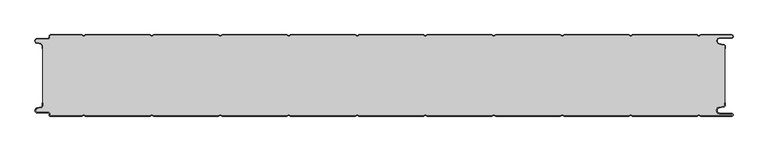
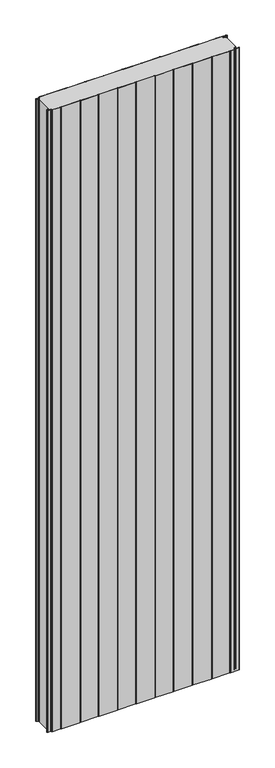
"""IFC4 building model written with IfcOpenShell, lengths in millimetres: plate geometry, PMH_Curtain-Panel_Perfil-Frigorífico : ACH_PMH_Panel-Acústico-Sectorización_120M."""

from ifc_helpers import new_model, si_unit, point, frame_2d, origin, origin_with_axes, place, context, project, spatial, polyline, circle_curve, trimmed, segment, composite_curve, outline, extrude, source, transform, mapped, element, save


def plate_1fa75648(model_context):
    return source(origin(), model_context, "Body", "SweptSolid", [
        extrude(outline(composite_curve([segment(polyline([(-500.0, 15.878557), (-500.0, 20.0), (-499.2, 20.0), (-499.2, 15.878557)]), True, "CONTINUOUS"), segment(trimmed(circle_curve(frame_2d((-502.0, 15.878557)), 2.8), [point((-499.2, 15.878557))], [point((-501.370137, 13.1503208))], False, "CARTESIAN"), True, "CONTINUOUS"), segment(polyline([(-501.370137, 13.1503208), (-507.529863, 11.728236)]), True, "CONTINUOUS"), segment(trimmed(circle_curve(frame_2d((-506.9, 9.0)), 2.8), [point((-507.529863, 11.728236))], [point((-506.9, 6.2))], True, "CARTESIAN"), True, "CONTINUOUS"), segment(polyline([(-506.9, 6.2), (-491.4, 6.2)]), True, "CONTINUOUS"), segment(trimmed(circle_curve(frame_2d((-491.4, 3.4)), 2.8), [point((-491.4, 6.2))], [point((-488.6, 3.4))], False, "CARTESIAN"), True, "CONTINUOUS"), segment(polyline([(-488.6, 3.4), (-488.6, 2.0)]), True, "CONTINUOUS"), segment(trimmed(circle_curve(frame_2d((-487.4, 2.0)), 1.2), [point((-488.6, 2.0))], [point((-487.4, 0.8))], True, "CARTESIAN"), True, "CONTINUOUS"), segment(polyline([(-487.4, 0.8), (-442.3143588, 0.8), (-439.4, 2.482606), (-436.4856412, 0.8), (-342.3143588, 0.8), (-339.4, 2.482606), (-336.4856412, 0.8), (-242.3143588, 0.8), (-239.4, 2.482606), (-236.4856412, 0.8), (-142.3143588, 0.8), (-139.4, 2.482606), (-136.4856412, 0.8), (-42.3143588, 0.8), (-39.4, 2.482606), (-36.4856412, 0.8), (57.6856412, 0.8), (60.6, 2.482606), (63.5143588, 0.8), (157.6856412, 0.8), (160.6, 2.482606), (163.5143588, 0.8), (257.6856412, 0.8), (260.6, 2.482606), (263.5143588, 0.8), (357.6856412, 0.8), (360.6, 2.482606), (363.5143588, 0.8), (457.6856412, 0.8), (460.6, 2.482606), (463.5143588, 0.8), (508.1, 0.8)]), True, "CONTINUOUS"), segment(trimmed(circle_curve(frame_2d((508.1, 2.5)), 1.7), [point((508.1, 0.8))], [point((508.1, 4.2))], True, "CARTESIAN"), True, "CONTINUOUS"), segment(polyline([(508.1, 4.2), (491.1, 4.2)]), True, "CONTINUOUS"), segment(trimmed(circle_curve(frame_2d((491.1, 9.0)), 4.8), [point((491.1, 4.2))], [point((490.2664884, 13.7270771))], False, "CARTESIAN"), True, "CONTINUOUS"), segment(polyline([(490.2664884, 13.7270771), (496.7125669, 14.8636953)]), True, "CONTINUOUS"), segment(trimmed(circle_curve(frame_2d((496.4, 16.6363492)), 1.8), [point((496.7125669, 14.8636953))], [point((498.2, 16.6363492))], True, "CARTESIAN"), True, "CONTINUOUS"), segment(polyline([(498.2, 16.6363492), (498.2, 20.0), (499.0, 20.0), (499.0, 16.6363492)]), True, "CONTINUOUS"), segment(trimmed(circle_curve(frame_2d((496.4, 16.6363492)), 2.6), [point((499.0, 16.6363492))], [point((496.8514855, 14.0758491))], False, "CARTESIAN"), True, "CONTINUOUS"), segment(polyline([(496.8514855, 14.0758491), (490.405407, 12.939231)]), True, "CONTINUOUS"), segment(trimmed(circle_curve(frame_2d((491.1, 9.0)), 4.0), [point((490.405407, 12.939231))], [point((491.1, 5.0))], True, "CARTESIAN"), True, "CONTINUOUS"), segment(polyline([(491.1, 5.0), (508.1, 5.0)]), True, "CONTINUOUS"), segment(trimmed(circle_curve(frame_2d((508.1, 2.5)), 2.5), [point((508.1, 5.0))], [point((508.1, 0.0))], False, "CARTESIAN"), True, "CONTINUOUS"), segment(polyline([(508.1, 0.0), (463.2999995, 0.0), (460.6, 1.5588455), (457.9000005, 0.0), (363.2999995, 0.0), (360.6, 1.5588455), (357.9000005, 0.0), (263.2999995, 0.0), (260.6, 1.5588455), (257.9000005, 0.0), (163.2999995, 0.0), (160.6, 1.5588455), (157.9000005, 0.0), (63.2999995, 0.0), (60.6, 1.5588455), (57.9000005, 0.0), (-36.7000005, 0.0), (-39.4, 1.5588455), (-42.0999995, 0.0), (-136.7000005, 0.0), (-139.4, 1.5588455), (-142.0999995, 0.0), (-236.7000005, 0.0), (-239.4, 1.5588455), (-242.0999995, 0.0), (-336.7000005, 0.0), (-339.4, 1.5588455), (-342.0999995, 0.0), (-436.7000005, 0.0), (-439.4, 1.5588455), (-442.0999995, 0.0), (-487.4, 0.0)]), True, "CONTINUOUS"), segment(trimmed(circle_curve(frame_2d((-487.4, 2.0)), 2.0), [point((-487.4, 0.0))], [point((-489.4, 2.0))], False, "CARTESIAN"), True, "CONTINUOUS"), segment(polyline([(-489.4, 2.0), (-489.4, 3.4)]), True, "CONTINUOUS"), segment(trimmed(circle_curve(frame_2d((-491.4, 3.4)), 2.0), [point((-489.4, 3.4))], [point((-491.4, 5.4))], True, "CARTESIAN"), True, "CONTINUOUS"), segment(polyline([(-491.4, 5.4), (-506.9, 5.4)]), True, "CONTINUOUS"), segment(trimmed(circle_curve(frame_2d((-506.9, 9.0)), 3.6), [point((-506.9, 5.4))], [point((-507.7098239, 12.5077322))], False, "CARTESIAN"), True, "CONTINUOUS"), segment(polyline([(-507.7098239, 12.5077322), (-501.5500979, 13.929817)]), True, "CONTINUOUS"), segment(trimmed(circle_curve(frame_2d((-502.0, 15.878557)), 2.0), [point((-501.5500979, 13.929817))], [point((-500.0, 15.878557))], True, "CARTESIAN"), True, "CONTINUOUS")], self_intersect=False)), origin_with_axes(), (0.0, 0.0, 1.0), 3500.0),
        extrude(outline(composite_curve([segment(trimmed(circle_curve(frame_2d((-502.0, 104.1214426)), 2.8), [point((-499.2, 104.1214426))], [point((-501.370137, 106.8496788))], True, "CARTESIAN"), True, "CONTINUOUS"), segment(polyline([(-501.370137, 106.8496788), (-507.5298631, 108.2717638)]), True, "CONTINUOUS"), segment(trimmed(circle_curve(frame_2d((-506.9, 111.0)), 2.8), [point((-507.5298631, 108.2717638))], [point((-506.9, 113.8))], False, "CARTESIAN"), True, "CONTINUOUS"), segment(polyline([(-506.9, 113.8), (-491.4000001, 113.8)]), True, "CONTINUOUS"), segment(trimmed(circle_curve(frame_2d((-491.4000001, 116.6)), 2.8), [point((-491.4000001, 113.8))], [point((-488.6000001, 116.6))], True, "CARTESIAN"), True, "CONTINUOUS"), segment(polyline([(-488.6000001, 116.6), (-488.6000001, 118.0)]), True, "CONTINUOUS"), segment(trimmed(circle_curve(frame_2d((-487.4000001, 118.0)), 1.2), [point((-488.6000001, 118.0))], [point((-487.4000001, 119.2))], False, "CARTESIAN"), True, "CONTINUOUS"), segment(polyline([(-487.4000001, 119.2), (-442.3143589, 119.2), (-439.4000001, 117.517394), (-436.4856412, 119.2), (-342.3143589, 119.2), (-339.4000001, 117.517394), (-336.4856412, 119.2), (-242.3143589, 119.2), (-239.4000001, 117.517394), (-236.4856412, 119.2), (-142.3143589, 119.2), (-139.4000001, 117.517394), (-136.4856412, 119.2), (-42.3143589, 119.2), (-39.4000001, 117.517394), (-36.4856412, 119.2), (57.6856411, 119.2), (60.5999999, 117.517394), (63.5143588, 119.2), (157.6856411, 119.2), (160.5999999, 117.517394), (163.5143588, 119.2), (257.6856411, 119.2), (260.5999999, 117.517394), (263.5143588, 119.2), (357.6856411, 119.2), (360.5999999, 117.517394), (363.5143588, 119.2), (457.6856411, 119.2), (460.5999999, 117.517394), (463.5143588, 119.2), (508.0999999, 119.2)]), True, "CONTINUOUS"), segment(trimmed(circle_curve(frame_2d((508.0999999, 117.5)), 1.7), [point((508.0999999, 119.2))], [point((508.0999999, 115.8))], False, "CARTESIAN"), True, "CONTINUOUS"), segment(polyline([(508.0999999, 115.8), (491.0999999, 115.8)]), True, "CONTINUOUS"), segment(trimmed(circle_curve(frame_2d((491.0999999, 111.0)), 4.8), [point((491.0999999, 115.8))], [point((490.2664883, 106.2729229))], True, "CARTESIAN"), True, "CONTINUOUS"), segment(polyline([(490.2664883, 106.2729229), (496.7125668, 105.1363047)]), True, "CONTINUOUS"), segment(trimmed(circle_curve(frame_2d((496.3999999, 103.3636508)), 1.8), [point((496.7125668, 105.1363047))], [point((498.1999999, 103.3636508))], False, "CARTESIAN"), True, "CONTINUOUS"), segment(polyline([(498.1999999, 103.3636508), (498.1999999, 16.6363492)]), True, "CONTINUOUS"), segment(trimmed(circle_curve(frame_2d((496.3999999, 16.6363492)), 1.8), [point((498.1999999, 16.6363492))], [point((496.7125668, 14.8636953))], False, "CARTESIAN"), True, "CONTINUOUS"), segment(polyline([(496.7125668, 14.8636953), (490.2664883, 13.7270771)]), True, "CONTINUOUS"), segment(trimmed(circle_curve(frame_2d((491.0999999, 9.0)), 4.8), [point((490.2664883, 13.7270771))], [point((491.0999999, 4.2))], True, "CARTESIAN"), True, "CONTINUOUS"), segment(polyline([(491.0999999, 4.2), (508.0999999, 4.2)]), True, "CONTINUOUS"), segment(trimmed(circle_curve(frame_2d((508.0999999, 2.5)), 1.7), [point((508.0999999, 4.2))], [point((508.0999999, 0.8))], False, "CARTESIAN"), True, "CONTINUOUS"), segment(polyline([(508.0999999, 0.8), (463.5143588, 0.8), (460.5999999, 2.482606), (457.6856411, 0.8), (363.5143588, 0.8), (360.5999999, 2.482606), (357.6856411, 0.8), (263.5143588, 0.8), (260.5999999, 2.482606), (257.6856411, 0.8), (163.5143588, 0.8), (160.5999999, 2.482606), (157.6856411, 0.8), (63.5143588, 0.8), (60.5999999, 2.482606), (57.6856411, 0.8), (-36.4856412, 0.8), (-39.4000001, 2.482606), (-42.3143589, 0.8), (-136.4856412, 0.8), (-139.4000001, 2.482606), (-142.3143589, 0.8), (-236.4856412, 0.8), (-239.4000001, 2.482606), (-242.3143589, 0.8), (-336.4856412, 0.8), (-339.4000001, 2.482606), (-342.3143589, 0.8), (-436.4856412, 0.8), (-439.4000001, 2.482606), (-442.3143589, 0.8), (-487.4000001, 0.8)]), True, "CONTINUOUS"), segment(trimmed(circle_curve(frame_2d((-487.4000001, 2.0)), 1.2), [point((-487.4000001, 0.8))], [point((-488.6000001, 2.0))], False, "CARTESIAN"), True, "CONTINUOUS"), segment(polyline([(-488.6000001, 2.0), (-488.6000001, 3.4)]), True, "CONTINUOUS"), segment(trimmed(circle_curve(frame_2d((-491.4000001, 3.4)), 2.8), [point((-488.6000001, 3.4))], [point((-491.4000001, 6.2))], True, "CARTESIAN"), True, "CONTINUOUS"), segment(polyline([(-491.4000001, 6.2), (-506.9, 6.2)]), True, "CONTINUOUS"), segment(trimmed(circle_curve(frame_2d((-506.9, 9.0)), 2.8), [point((-506.9, 6.2))], [point((-507.5298631, 11.7282362))], False, "CARTESIAN"), True, "CONTINUOUS"), segment(polyline([(-507.5298631, 11.7282362), (-501.370137, 13.1503212)]), True, "CONTINUOUS"), segment(trimmed(circle_curve(frame_2d((-502.0, 15.8785573)), 2.8), [point((-501.370137, 13.1503212))], [point((-499.2, 15.8785573))], True, "CARTESIAN"), True, "CONTINUOUS"), segment(polyline([(-499.2, 15.8785573), (-499.2, 104.1214426)]), True, "CONTINUOUS")], self_intersect=False)), origin_with_axes(), (0.0, 0.0, 1.0), 3500.0),
        extrude(outline(composite_curve([segment(trimmed(circle_curve(frame_2d((-502.0, 104.121443)), 2.0), [point((-500.0, 104.121443))], [point((-501.5500978, 106.0701831))], True, "CARTESIAN"), True, "CONTINUOUS"), segment(polyline([(-501.5500978, 106.0701831), (-507.7098239, 107.492268)]), True, "CONTINUOUS"), segment(trimmed(circle_curve(frame_2d((-506.9, 111.0)), 3.6), [point((-507.7098239, 107.492268))], [point((-506.9, 114.6))], False, "CARTESIAN"), True, "CONTINUOUS"), segment(polyline([(-506.9, 114.6), (-491.4, 114.6)]), True, "CONTINUOUS"), segment(trimmed(circle_curve(frame_2d((-491.4, 116.6)), 2.0), [point((-491.4, 114.6))], [point((-489.4, 116.6))], True, "CARTESIAN"), True, "CONTINUOUS"), segment(polyline([(-489.4, 116.6), (-489.4, 118.0)]), True, "CONTINUOUS"), segment(trimmed(circle_curve(frame_2d((-487.4, 118.0)), 2.0), [point((-489.4, 118.0))], [point((-487.4, 120.0))], False, "CARTESIAN"), True, "CONTINUOUS"), segment(polyline([(-487.4, 120.0), (-442.0999995, 120.0), (-439.4, 118.4411545), (-436.7000005, 120.0), (-342.0999995, 120.0), (-339.4, 118.4411545), (-336.7000005, 120.0), (-242.0999995, 120.0), (-239.4, 118.4411545), (-236.7000005, 120.0), (-142.0999995, 120.0), (-139.4, 118.4411545), (-136.7000005, 120.0), (-42.0999995, 120.0), (-39.4, 118.4411545), (-36.7000005, 120.0), (57.9000005, 120.0), (60.6, 118.4411545), (63.2999995, 120.0), (157.9000005, 120.0), (160.6, 118.4411545), (163.2999995, 120.0), (257.9000005, 120.0), (260.6, 118.4411545), (263.2999995, 120.0), (357.9000005, 120.0), (360.6, 118.4411545), (363.2999995, 120.0), (457.9000005, 120.0), (460.6, 118.4411545), (463.2999995, 120.0), (508.1, 120.0)]), True, "CONTINUOUS"), segment(trimmed(circle_curve(frame_2d((508.1, 117.5)), 2.5), [point((508.1, 120.0))], [point((508.1, 115.0))], False, "CARTESIAN"), True, "CONTINUOUS"), segment(polyline([(508.1, 115.0), (491.1, 115.0)]), True, "CONTINUOUS"), segment(trimmed(circle_curve(frame_2d((491.1, 111.0)), 4.0), [point((491.1, 115.0))], [point((490.405407, 107.060769))], True, "CARTESIAN"), True, "CONTINUOUS"), segment(polyline([(490.405407, 107.060769), (496.8514855, 105.9241509)]), True, "CONTINUOUS"), segment(trimmed(circle_curve(frame_2d((496.4, 103.3636508)), 2.6), [point((496.8514855, 105.9241509))], [point((499.0, 103.3636508))], False, "CARTESIAN"), True, "CONTINUOUS"), segment(polyline([(499.0, 103.3636508), (499.0, 100.0), (498.2, 100.0), (498.2, 103.3636508)]), True, "CONTINUOUS"), segment(trimmed(circle_curve(frame_2d((496.4, 103.3636508)), 1.8), [point((498.2, 103.3636508))], [point((496.7125669, 105.1363047))], True, "CARTESIAN"), True, "CONTINUOUS"), segment(polyline([(496.7125669, 105.1363047), (490.2664884, 106.2729228)]), True, "CONTINUOUS"), segment(trimmed(circle_curve(frame_2d((491.1, 111.0)), 4.8), [point((490.2664884, 106.2729228))], [point((491.1, 115.8))], False, "CARTESIAN"), True, "CONTINUOUS"), segment(polyline([(491.1, 115.8), (508.1, 115.8)]), True, "CONTINUOUS"), segment(trimmed(circle_curve(frame_2d((508.1, 117.5)), 1.7), [point((508.1, 115.8))], [point((508.1, 119.2))], True, "CARTESIAN"), True, "CONTINUOUS"), segment(polyline([(508.1, 119.2), (463.5143588, 119.2), (460.6, 117.517394), (457.6856412, 119.2), (363.5143588, 119.2), (360.6, 117.517394), (357.6856412, 119.2), (263.5143588, 119.2), (260.6, 117.517394), (257.6856412, 119.2), (163.5143588, 119.2), (160.6, 117.517394), (157.6856412, 119.2), (63.5143588, 119.2), (60.6, 117.517394), (57.6856412, 119.2), (-36.4856412, 119.2), (-39.4, 117.517394), (-42.3143588, 119.2), (-136.4856412, 119.2), (-139.4, 117.517394), (-142.3143588, 119.2), (-236.4856412, 119.2), (-239.4, 117.517394), (-242.3143588, 119.2), (-336.4856412, 119.2), (-339.4, 117.517394), (-342.3143588, 119.2), (-436.4856412, 119.2), (-439.4, 117.517394), (-442.3143588, 119.2), (-487.4, 119.2)]), True, "CONTINUOUS"), segment(trimmed(circle_curve(frame_2d((-487.4, 118.0)), 1.2), [point((-487.4, 119.2))], [point((-488.6, 118.0))], True, "CARTESIAN"), True, "CONTINUOUS"), segment(polyline([(-488.6, 118.0), (-488.6, 116.6)]), True, "CONTINUOUS"), segment(trimmed(circle_curve(frame_2d((-491.4, 116.6)), 2.8), [point((-488.6, 116.6))], [point((-491.4, 113.8))], False, "CARTESIAN"), True, "CONTINUOUS"), segment(polyline([(-491.4, 113.8), (-506.9, 113.8)]), True, "CONTINUOUS"), segment(trimmed(circle_curve(frame_2d((-506.9, 111.0)), 2.8), [point((-506.9, 113.8))], [point((-507.529863, 108.2717638))], True, "CARTESIAN"), True, "CONTINUOUS"), segment(polyline([(-507.529863, 108.2717638), (-501.370137, 106.849679)]), True, "CONTINUOUS"), segment(trimmed(circle_curve(frame_2d((-502.0, 104.121443)), 2.8), [point((-501.370137, 106.849679))], [point((-499.2, 104.121443))], False, "CARTESIAN"), True, "CONTINUOUS"), segment(polyline([(-499.2, 104.121443), (-499.2, 100.0), (-500.0, 100.0), (-500.0, 104.121443)]), True, "CONTINUOUS")], self_intersect=False)), origin_with_axes(), (0.0, 0.0, 1.0), 3500.0),
    ])


if __name__ == "__main__":
    model = new_model("IFC4")
    model_context = context("Model", 3, world=origin())
    ifc_project = project(units=[si_unit("LENGTHUNIT", "METRE", prefix="MILLI")], contexts=[model_context])
    site = spatial("IfcSite", under=ifc_project)
    building = spatial("IfcBuilding", under=site)
    placement = place(None, origin())
    plate_shape = plate_1fa75648(model_context)
    element("IfcPlate", 1, ObjectType="PMH_Curtain-Panel_Perfil-Frigorífico : ACH_PMH_Panel-Acústico-Sectorización_120M", at=placement, inside=building, context=model_context, shape_type="MappedRepresentation", body=[
        mapped(plate_shape, transform((0.0, 0.0, 0.0), x_axis=(1.0, 0.0, 0.0), y_axis=(0.0, 1.0, 0.0), z_axis=(0.0, 0.0, 1.0))),
    ])
    save(model, "model.ifc")
